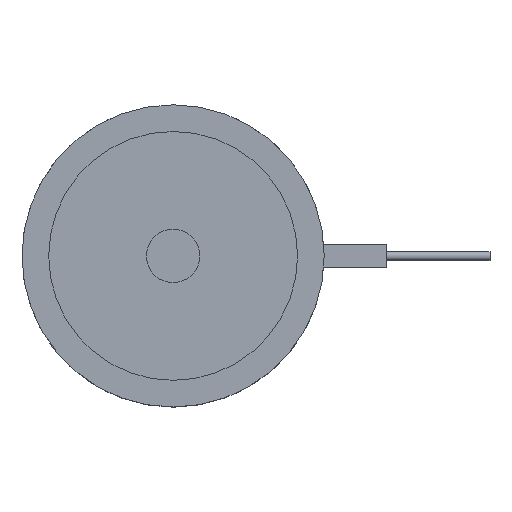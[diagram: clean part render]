
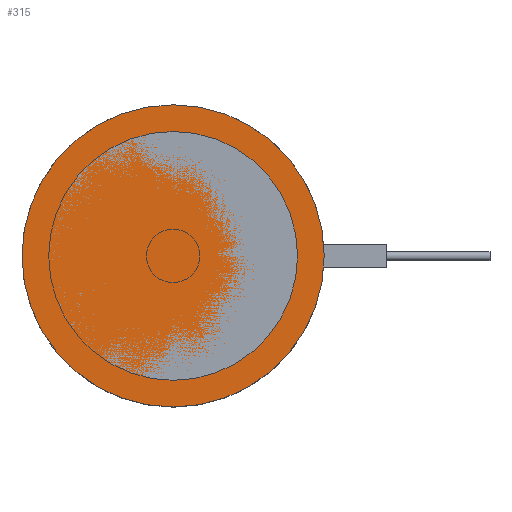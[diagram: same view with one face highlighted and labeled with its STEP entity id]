
A CAD part, top view. The second image highlights one B-rep face of the part: STEP entity #315.
In plain terms, the highlighted planar face has unit normal (0, 0, 1).
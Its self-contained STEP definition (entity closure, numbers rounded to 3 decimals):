
#218=PLANE('',#1062);
#253=FACE_OUTER_BOUND('',#483,.T.);
#315=ADVANCED_FACE('',(#253),#218,.F.);
#483=EDGE_LOOP('',(#613));
#613=ORIENTED_EDGE('',*,*,#882,.F.);
#794=VERTEX_POINT('',#1537);
#882=EDGE_CURVE('',#794,#794,#975,.T.);
#975=CIRCLE('',#1061,17.);
#1061=AXIS2_PLACEMENT_3D('',#1536,#1249,#1250);
#1062=AXIS2_PLACEMENT_3D('',#1538,#1251,#1252);
#1249=DIRECTION('',(0.,0.,-1.));
#1250=DIRECTION('',(-1.,0.,0.));
#1251=DIRECTION('',(0.,0.,-1.));
#1252=DIRECTION('',(-1.,0.,0.));
#1536=CARTESIAN_POINT('',(0.,0.,0.));
#1537=CARTESIAN_POINT('',(-17.,0.,0.));
#1538=CARTESIAN_POINT('',(0.,0.,0.));
